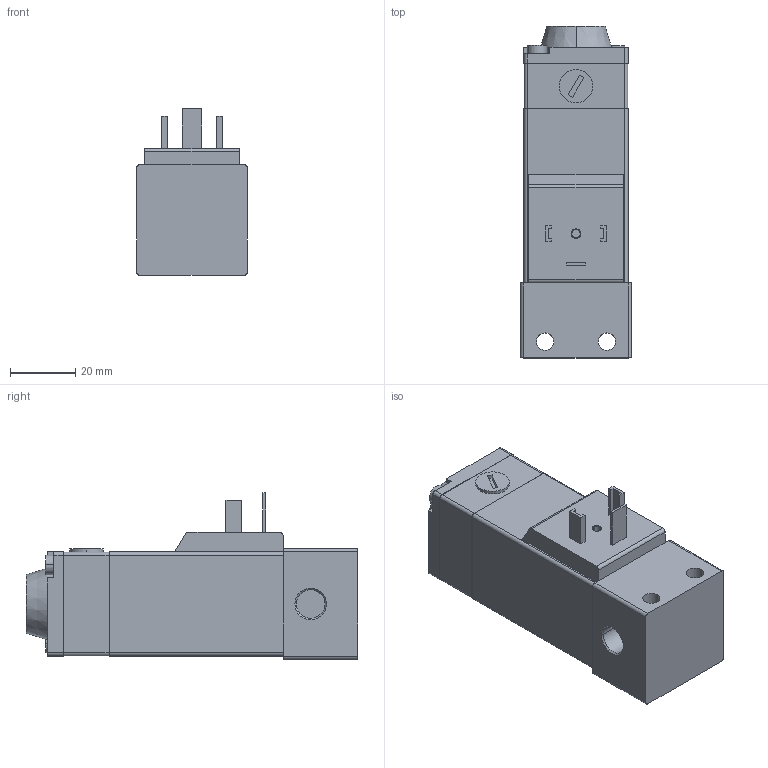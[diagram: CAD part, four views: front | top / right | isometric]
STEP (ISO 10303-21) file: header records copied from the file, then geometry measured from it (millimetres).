
FILE_DESCRIPTION((''),'2;1');
FILE_NAME('0820005200','2016-12-08T',('tng2hc'),(''),'PRO/ENGINEER BY PARAMETRIC TECHNOLOGY CORPORATION, 2012421','PRO/ENGINEER BY PARAMETRIC TECHNOLOGY CORPORATION, 2012421','');
FILE_SCHEMA(('CONFIG_CONTROL_DESIGN','SHAPE_APPEARANCE_LAYERS_GROUPS'));
Length unit declared in the file: millimetre
Products named in the file (1): 0820005200
Bounding box: 34 x 102 x 51.2 mm (x, y, z)
Volume: 104626.3 mm3; surface area: 18103.4 mm2
Topology: 1 solids, 1 shells, 142 faces, 362 edges, 238 vertices
Faces by surface type: plane 94, cylinder 38, cone 10
Entity records: 4340 total; most frequent: CARTESIAN_POINT 742, DIRECTION 734, ORIENTED_EDGE 724, EDGE_CURVE 362, VECTOR 274, LINE 274, VERTEX_POINT 238, AXIS2_PLACEMENT_3D 230
